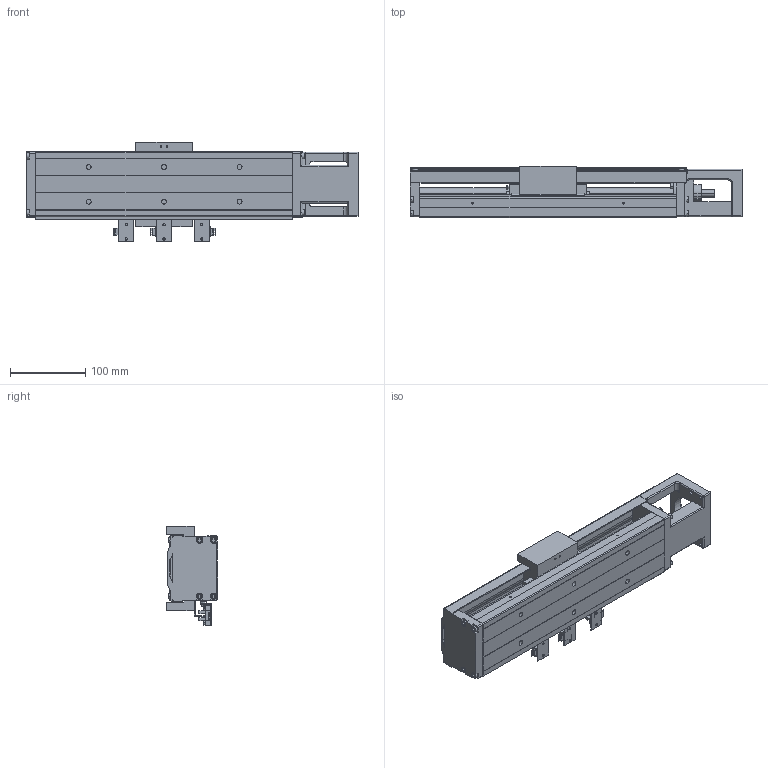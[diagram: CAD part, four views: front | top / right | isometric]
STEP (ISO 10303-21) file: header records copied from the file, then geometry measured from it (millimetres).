
FILE_DESCRIPTION (( 'STEP AP203' ), '1' );
FILE_NAME ('HKK86D10C-340A1-F0CS1.stp', '2021-11-29T07:41:52', ( '' ), ( '' ), 'SwSTEP 2.0', 'SolidWorks 2018', '' );
FILE_SCHEMA (( 'CONFIG_CONTROL_DESIGN' ));
Length unit declared in the file: millimetre
Products named in the file (1): HKK86D10C-340A1-F0CS1
Bounding box: 440 x 68 x 132.5 mm (x, y, z)
Volume: 1269265.1 mm3; surface area: 333062.8 mm2
Topology: 6 solids, 21 shells, 1398 faces, 3473 edges, 2190 vertices
Faces by surface type: plane 794, cylinder 425, cone 130, torus 32, sphere 9, bspline 8
Entity records: 41471 total; most frequent: CARTESIAN_POINT 8202, DIRECTION 6889, ORIENTED_EDGE 6830, EDGE_CURVE 3415, LINE 2321, VECTOR 2321, AXIS2_PLACEMENT_3D 2284, VERTEX_POINT 2186
